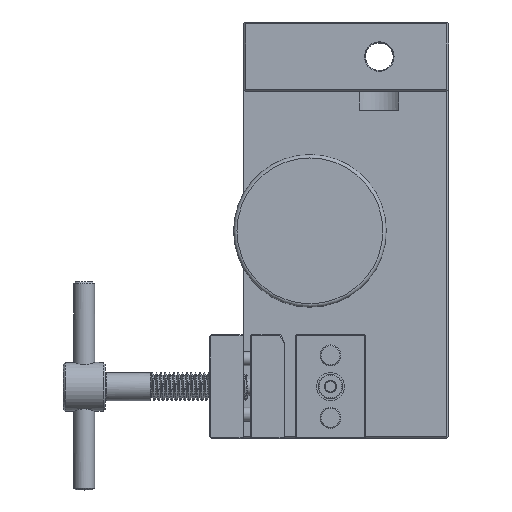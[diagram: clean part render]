
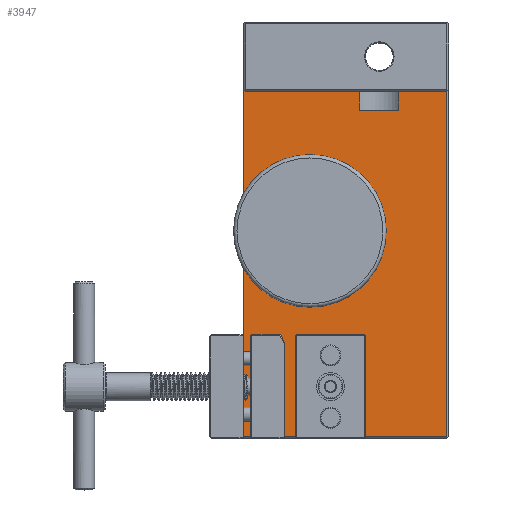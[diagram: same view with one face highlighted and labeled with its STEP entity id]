
A CAD part, top view. The second image highlights one B-rep face of the part: STEP entity #3947.
In plain terms, the highlighted free-form (B-spline) face has degree [1, 1] with [2, 2] control points.
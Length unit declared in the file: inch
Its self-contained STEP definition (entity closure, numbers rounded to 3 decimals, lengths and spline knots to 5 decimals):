
#270=CARTESIAN_POINT('',(6.29002,-3.68507,0.785));
#271=VERTEX_POINT('',#270);
#278=CARTESIAN_POINT('',(6.29002,-2.54021,0.785));
#279=VERTEX_POINT('',#278);
#280=CARTESIAN_POINT('',(6.29002,-2.54021,0.785));
#281=DIRECTION('',(0.0,-1.0,0.0));
#282=VECTOR('',#281,1.14486);
#283=LINE('',#280,#282);
#284=EDGE_CURVE('',#279,#271,#283,.T.);
#355=CARTESIAN_POINT('',(5.51002,-2.54021,0.785));
#356=VERTEX_POINT('',#355);
#363=CARTESIAN_POINT('',(5.51002,-3.68507,0.785));
#364=VERTEX_POINT('',#363);
#365=CARTESIAN_POINT('',(5.51002,-3.68507,0.785));
#366=DIRECTION('',(0.0,1.0,0.0));
#367=VECTOR('',#366,1.14486);
#368=LINE('',#365,#367);
#369=EDGE_CURVE('',#364,#356,#368,.T.);
#394=CARTESIAN_POINT('',(5.51417,-2.53607,0.785));
#395=VERTEX_POINT('',#394);
#402=CARTESIAN_POINT('',(5.51002,-2.54021,0.785));
#403=DIRECTION('',(0.707,0.707,0.0));
#404=VECTOR('',#403,0.00586);
#405=LINE('',#402,#404);
#406=EDGE_CURVE('',#356,#395,#405,.T.);
#417=CARTESIAN_POINT('',(6.28588,-2.53607,0.785));
#418=VERTEX_POINT('',#417);
#419=CARTESIAN_POINT('',(5.51417,-2.53607,0.785));
#420=DIRECTION('',(1.0,0.0,0.0));
#421=VECTOR('',#420,0.77172);
#422=LINE('',#419,#421);
#423=EDGE_CURVE('',#395,#418,#422,.T.);
#448=CARTESIAN_POINT('',(6.28588,-2.53607,0.785));
#449=DIRECTION('',(0.707,-0.707,0.0));
#450=VECTOR('',#449,0.00586);
#451=LINE('',#448,#450);
#452=EDGE_CURVE('',#418,#279,#451,.T.);
#1437=CARTESIAN_POINT('',(7.22102,-3.68507,0.785));
#1438=VERTEX_POINT('',#1437);
#1454=CARTESIAN_POINT('',(7.22102,0.23193,0.785));
#1455=VERTEX_POINT('',#1454);
#1462=CARTESIAN_POINT('',(7.22102,0.23193,0.785));
#1463=DIRECTION('',(0.0,-1.0,0.0));
#1464=VECTOR('',#1463,3.917);
#1465=LINE('',#1462,#1464);
#1466=EDGE_CURVE('',#1455,#1438,#1465,.T.);
#1561=CARTESIAN_POINT('',(6.23128,0.01793,0.785));
#1562=VERTEX_POINT('',#1561);
#1563=CARTESIAN_POINT('',(6.67597,0.01793,0.785));
#1564=VERTEX_POINT('',#1563);
#1565=CARTESIAN_POINT('',(6.23128,0.01793,0.785));
#1566=DIRECTION('',(1.0,0.0,0.0));
#1567=VECTOR('',#1566,0.44469);
#1568=LINE('',#1565,#1567);
#1569=EDGE_CURVE('',#1562,#1564,#1568,.T.);
#1704=CARTESIAN_POINT('',(4.91902,-2.53007,0.785));
#1705=VERTEX_POINT('',#1704);
#1712=CARTESIAN_POINT('',(4.91902,0.25193,0.785));
#1713=VERTEX_POINT('',#1712);
#1714=CARTESIAN_POINT('',(4.91902,0.25193,0.785));
#1715=DIRECTION('',(0.0,-1.0,0.0));
#1716=VECTOR('',#1715,2.782);
#1717=LINE('',#1714,#1716);
#1718=EDGE_CURVE('',#1713,#1705,#1717,.T.);
#1753=CARTESIAN_POINT('',(4.93902,0.23193,0.785));
#1754=VERTEX_POINT('',#1753);
#1755=CARTESIAN_POINT('',(4.93902,0.23193,0.785));
#1756=DIRECTION('',(-0.707,0.707,0.0));
#1757=VECTOR('',#1756,0.02828);
#1758=LINE('',#1755,#1757);
#1759=EDGE_CURVE('',#1713,#1754,#1758,.F.);
#1831=CARTESIAN_POINT('',(6.2174,0.23193,0.785));
#1832=VERTEX_POINT('',#1831);
#1833=CARTESIAN_POINT('',(4.93902,0.23193,0.785));
#1834=DIRECTION('',(1.0,0.0,0.0));
#1835=VECTOR('',#1834,1.27837);
#1836=LINE('',#1833,#1835);
#1837=EDGE_CURVE('',#1754,#1832,#1836,.T.);
#1839=CARTESIAN_POINT('',(6.68985,0.23193,0.785));
#1840=VERTEX_POINT('',#1839);
#1848=CARTESIAN_POINT('',(6.68985,0.23193,0.785));
#1849=DIRECTION('',(1.0,0.0,0.0));
#1850=VECTOR('',#1849,0.53117);
#1851=LINE('',#1848,#1850);
#1852=EDGE_CURVE('',#1840,#1455,#1851,.T.);
#1883=CARTESIAN_POINT('',(6.23128,0.24193,0.785));
#1884=VERTEX_POINT('',#1883);
#1885=CARTESIAN_POINT('',(6.23128,0.01793,0.785));
#1886=DIRECTION('',(0.0,1.0,0.0));
#1887=VECTOR('',#1886,0.224);
#1888=LINE('',#1885,#1887);
#1889=EDGE_CURVE('',#1562,#1884,#1888,.T.);
#1892=CARTESIAN_POINT('',(6.67597,0.24193,0.785));
#1893=VERTEX_POINT('',#1892);
#1894=CARTESIAN_POINT('',(6.67597,0.24193,0.785));
#1895=DIRECTION('',(0.0,-1.0,0.0));
#1896=VECTOR('',#1895,0.224);
#1897=LINE('',#1894,#1896);
#1898=EDGE_CURVE('',#1893,#1564,#1897,.T.);
#1956=CARTESIAN_POINT('',(6.23128,0.24193,0.785));
#1957=CARTESIAN_POINT('',(6.22445,0.23708,0.785));
#1958=CARTESIAN_POINT('',(6.2174,0.23193,0.785));
#1966=(BOUNDED_CURVE()B_SPLINE_CURVE(2,(#1956,#1957,#1958),.UNSPECIFIED.,.F.,.U.)B_SPLINE_CURVE_WITH_KNOTS((3,3),(0.0,0.01711),.UNSPECIFIED.)CURVE()GEOMETRIC_REPRESENTATION_ITEM()RATIONAL_B_SPLINE_CURVE((1.0,1.,1.0))REPRESENTATION_ITEM(''));
#1967=EDGE_CURVE('',#1832,#1884,#1966,.F.);
#1970=CARTESIAN_POINT('',(6.68985,0.23193,0.785));
#1971=CARTESIAN_POINT('',(6.6828,0.23708,0.785));
#1972=CARTESIAN_POINT('',(6.67597,0.24193,0.785));
#1980=(BOUNDED_CURVE()B_SPLINE_CURVE(2,(#1970,#1971,#1972),.UNSPECIFIED.,.F.,.U.)B_SPLINE_CURVE_WITH_KNOTS((3,3),(0.0,0.01711),.UNSPECIFIED.)CURVE()GEOMETRIC_REPRESENTATION_ITEM()RATIONAL_B_SPLINE_CURVE((1.0,1.,1.0))REPRESENTATION_ITEM(''));
#1981=EDGE_CURVE('',#1893,#1840,#1980,.F.);
#2244=CARTESIAN_POINT('',(4.91902,-3.68507,0.785));
#2245=VERTEX_POINT('',#2244);
#2252=CARTESIAN_POINT('',(4.91902,-2.54007,0.785));
#2253=VERTEX_POINT('',#2252);
#2254=CARTESIAN_POINT('',(4.91902,-3.68507,0.785));
#2255=DIRECTION('',(0.0,1.0,0.0));
#2256=VECTOR('',#2255,1.145);
#2257=LINE('',#2254,#2256);
#2258=EDGE_CURVE('',#2245,#2253,#2257,.T.);
#2379=CARTESIAN_POINT('',(4.90902,-2.53007,0.785));
#2380=VERTEX_POINT('',#2379);
#2381=CARTESIAN_POINT('',(4.91902,-2.53007,0.785));
#2382=DIRECTION('',(-1.0,0.0,0.0));
#2383=VECTOR('',#2382,0.01);
#2384=LINE('',#2381,#2383);
#2385=EDGE_CURVE('',#1705,#2380,#2384,.T.);
#2734=CARTESIAN_POINT('',(7.22102,-3.68507,0.785));
#2735=DIRECTION('',(-1.0,0.0,0.0));
#2736=VECTOR('',#2735,0.931);
#2737=LINE('',#2734,#2736);
#2738=EDGE_CURVE('',#1438,#271,#2737,.T.);
#2741=CARTESIAN_POINT('',(5.51002,-3.68507,0.785));
#2742=DIRECTION('',(-1.0,0.0,0.0));
#2743=VECTOR('',#2742,0.591);
#2744=LINE('',#2741,#2743);
#2745=EDGE_CURVE('',#364,#2245,#2744,.T.);
#3855=CARTESIAN_POINT('',(4.90902,-2.53007,0.785));
#3856=DIRECTION('',(0.707,-0.707,0.0));
#3857=VECTOR('',#3856,0.01414);
#3858=LINE('',#3855,#3857);
#3859=EDGE_CURVE('',#2380,#2253,#3858,.T.);
#3920=CARTESIAN_POINT('',(4.90902,-3.68507,0.785));
#3921=CARTESIAN_POINT('',(7.22102,-3.68507,0.785));
#3922=CARTESIAN_POINT('',(4.90902,0.25193,0.785));
#3923=CARTESIAN_POINT('',(7.22102,0.25193,0.785));
#3924=B_SPLINE_SURFACE_WITH_KNOTS('',1,1,((#3920,#3922),(#3921,#3923)),.UNSPECIFIED.,.F.,.F.,.U.,(2,2),(2,2),(0.0,2.312),(0.0,3.937),.UNSPECIFIED.);
#3925=ORIENTED_EDGE('',*,*,#2385,.T.);
#3926=ORIENTED_EDGE('',*,*,#3859,.T.);
#3927=ORIENTED_EDGE('',*,*,#2258,.F.);
#3928=ORIENTED_EDGE('',*,*,#2745,.F.);
#3929=ORIENTED_EDGE('',*,*,#369,.T.);
#3930=ORIENTED_EDGE('',*,*,#406,.T.);
#3931=ORIENTED_EDGE('',*,*,#423,.T.);
#3932=ORIENTED_EDGE('',*,*,#452,.T.);
#3933=ORIENTED_EDGE('',*,*,#284,.T.);
#3934=ORIENTED_EDGE('',*,*,#2738,.F.);
#3935=ORIENTED_EDGE('',*,*,#1466,.F.);
#3936=ORIENTED_EDGE('',*,*,#1852,.F.);
#3937=ORIENTED_EDGE('',*,*,#1981,.F.);
#3938=ORIENTED_EDGE('',*,*,#1898,.T.);
#3939=ORIENTED_EDGE('',*,*,#1569,.F.);
#3940=ORIENTED_EDGE('',*,*,#1889,.T.);
#3941=ORIENTED_EDGE('',*,*,#1967,.F.);
#3942=ORIENTED_EDGE('',*,*,#1837,.F.);
#3943=ORIENTED_EDGE('',*,*,#1759,.F.);
#3944=ORIENTED_EDGE('',*,*,#1718,.T.);
#3945=EDGE_LOOP('',(#3925,#3926,#3927,#3928,#3929,#3930,#3931,#3932,#3933,#3934,#3935,#3936,#3937,#3938,#3939,#3940,#3941,#3942,#3943,#3944));
#3946=FACE_OUTER_BOUND('',#3945,.T.);
#3947=ADVANCED_FACE('',(#3946),#3924,.T.);
